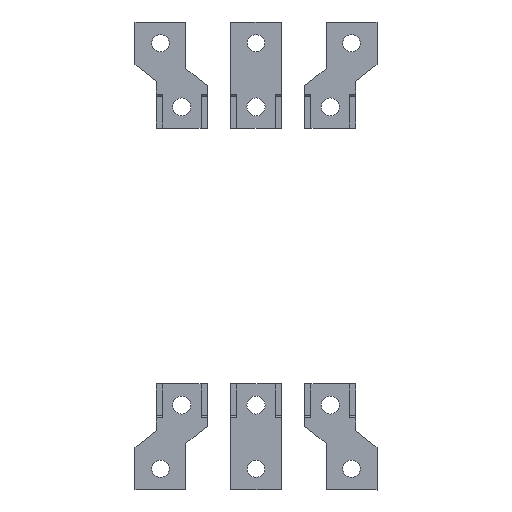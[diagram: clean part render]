
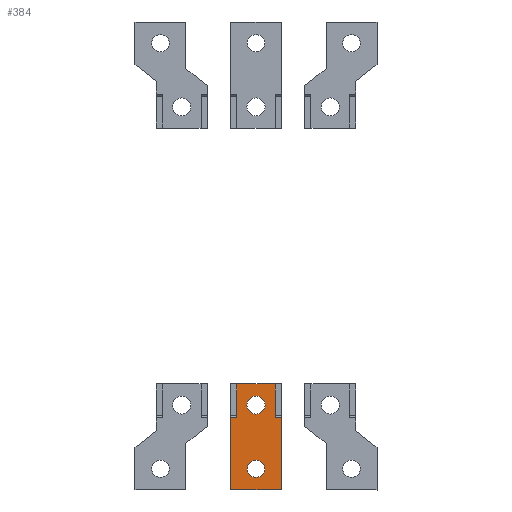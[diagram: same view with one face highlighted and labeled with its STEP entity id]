
A CAD part, top view. The second image highlights one B-rep face of the part: STEP entity #384.
In plain terms, the highlighted planar face has unit normal (0, 0, 1).
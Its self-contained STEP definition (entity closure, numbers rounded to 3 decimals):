
#116 = VECTOR ( 'NONE', #5432, 1000. ) ;
#135 = LINE ( 'NONE', #6839, #553 ) ;
#206 = VERTEX_POINT ( 'NONE', #6208 ) ;
#243 = FACE_BOUND ( 'NONE', #5377, .T. ) ;
#285 = ORIENTED_EDGE ( 'NONE', *, *, #3923, .F. ) ;
#293 = ORIENTED_EDGE ( 'NONE', *, *, #6228, .T. ) ;
#309 = ORIENTED_EDGE ( 'NONE', *, *, #5224, .F. ) ;
#347 = CARTESIAN_POINT ( 'NONE',  ( 0., -70.15, 24.2 ) ) ;
#384 = ADVANCED_FACE ( 'NONE', ( #6038, #243, #2803 ), #5697, .F. ) ;
#407 = AXIS2_PLACEMENT_3D ( 'NONE', #347, #5304, #859 ) ;
#409 = VECTOR ( 'NONE', #5088, 1000. ) ;
#553 = VECTOR ( 'NONE', #4684, 1000. ) ;
#627 = CIRCLE ( 'NONE', #4224, 4.1 ) ;
#677 = CARTESIAN_POINT ( 'NONE',  ( -4.25, -70.15, 24.2 ) ) ;
#714 = VERTEX_POINT ( 'NONE', #3971 ) ;
#736 = CIRCLE ( 'NONE', #407, 4.25 ) ;
#824 = CARTESIAN_POINT ( 'NONE',  ( 0., -70.15, 24.2 ) ) ;
#859 = DIRECTION ( 'NONE',  ( 1., 0., 0. ) ) ;
#865 = ORIENTED_EDGE ( 'NONE', *, *, #5262, .T. ) ;
#920 = EDGE_CURVE ( 'NONE', #1889, #714, #135, .T. ) ;
#931 = VERTEX_POINT ( 'NONE', #1372 ) ;
#1008 = EDGE_CURVE ( 'NONE', #2301, #3753, #627, .T. ) ;
#1320 = CARTESIAN_POINT ( 'NONE',  ( 0., -100.15, 24.2 ) ) ;
#1353 = AXIS2_PLACEMENT_3D ( 'NONE', #824, #2499, #4730 ) ;
#1357 = DIRECTION ( 'NONE',  ( 0., -1., 0. ) ) ;
#1372 = CARTESIAN_POINT ( 'NONE',  ( 9.1, -76.15, 24.2 ) ) ;
#1503 = CARTESIAN_POINT ( 'NONE',  ( -4.1, -100.15, 24.2 ) ) ;
#1508 = EDGE_CURVE ( 'NONE', #1721, #3262, #4884, .T. ) ;
#1721 = VERTEX_POINT ( 'NONE', #6866 ) ;
#1827 = CARTESIAN_POINT ( 'NONE',  ( -9.1, -76.15, 24.2 ) ) ;
#1860 = DIRECTION ( 'NONE',  ( -1., 0., 0. ) ) ;
#1887 = CARTESIAN_POINT ( 'NONE',  ( 4.25, -70.15, 24.2 ) ) ;
#1889 = VERTEX_POINT ( 'NONE', #4958 ) ;
#1955 = CARTESIAN_POINT ( 'NONE',  ( 9.1, -75.15, 24.2 ) ) ;
#2054 = VECTOR ( 'NONE', #4998, 1000. ) ;
#2083 = LINE ( 'NONE', #5786, #2937 ) ;
#2301 = VERTEX_POINT ( 'NONE', #1503 ) ;
#2336 = CIRCLE ( 'NONE', #1353, 4.25 ) ;
#2499 = DIRECTION ( 'NONE',  ( 0., 0., 1. ) ) ;
#2639 = AXIS2_PLACEMENT_3D ( 'NONE', #6745, #3976, #4534 ) ;
#2803 = FACE_OUTER_BOUND ( 'NONE', #4377, .T. ) ;
#2937 = VECTOR ( 'NONE', #6954, 1000. ) ;
#3020 = DIRECTION ( 'NONE',  ( 1., 0., 0. ) ) ;
#3159 = DIRECTION ( 'NONE',  ( 1., 0., 0. ) ) ;
#3262 = VERTEX_POINT ( 'NONE', #5674 ) ;
#3393 = EDGE_CURVE ( 'NONE', #931, #5306, #6956, .T. ) ;
#3753 = VERTEX_POINT ( 'NONE', #5787 ) ;
#3776 = ORIENTED_EDGE ( 'NONE', *, *, #5704, .F. ) ;
#3854 = ORIENTED_EDGE ( 'NONE', *, *, #920, .T. ) ;
#3923 = EDGE_CURVE ( 'NONE', #3753, #2301, #5540, .T. ) ;
#3971 = CARTESIAN_POINT ( 'NONE',  ( -9.1, -60.15, 24.2 ) ) ;
#3976 = DIRECTION ( 'NONE',  ( 0., 0., 1. ) ) ;
#4035 = VERTEX_POINT ( 'NONE', #1827 ) ;
#4069 = CARTESIAN_POINT ( 'NONE',  ( 0., -76.15, 24.2 ) ) ;
#4224 = AXIS2_PLACEMENT_3D ( 'NONE', #4844, #5380, #3159 ) ;
#4225 = EDGE_CURVE ( 'NONE', #4821, #6816, #736, .T. ) ;
#4311 = VECTOR ( 'NONE', #1357, 1000. ) ;
#4355 = LINE ( 'NONE', #4502, #2054 ) ;
#4377 = EDGE_LOOP ( 'NONE', ( #865, #4857, #6782, #3854, #4834, #309, #293, #5901 ) ) ;
#4389 = CARTESIAN_POINT ( 'NONE',  ( 12., -110.15, 24.2 ) ) ;
#4441 = AXIS2_PLACEMENT_3D ( 'NONE', #1320, #5125, #1860 ) ;
#4501 = VECTOR ( 'NONE', #3020, 1000. ) ;
#4502 = CARTESIAN_POINT ( 'NONE',  ( -12., -110.15, 24.2 ) ) ;
#4505 = EDGE_CURVE ( 'NONE', #4035, #714, #6860, .T. ) ;
#4534 = DIRECTION ( 'NONE',  ( 1., 0., 0. ) ) ;
#4684 = DIRECTION ( 'NONE',  ( -1., 0., 0. ) ) ;
#4730 = DIRECTION ( 'NONE',  ( 1., 0., 0. ) ) ;
#4821 = VERTEX_POINT ( 'NONE', #1887 ) ;
#4834 = ORIENTED_EDGE ( 'NONE', *, *, #4505, .F. ) ;
#4844 = CARTESIAN_POINT ( 'NONE',  ( 0., -100.15, 24.2 ) ) ;
#4851 = CARTESIAN_POINT ( 'NONE',  ( 12., -76.15, 24.2 ) ) ;
#4857 = ORIENTED_EDGE ( 'NONE', *, *, #3393, .F. ) ;
#4884 = LINE ( 'NONE', #6030, #6638 ) ;
#4919 = EDGE_LOOP ( 'NONE', ( #6048, #3776 ) ) ;
#4958 = CARTESIAN_POINT ( 'NONE',  ( 9.1, -60.15, 24.2 ) ) ;
#4960 = EDGE_CURVE ( 'NONE', #1889, #931, #6841, .T. ) ;
#4966 = DIRECTION ( 'NONE',  ( 1., 0., 0. ) ) ;
#4998 = DIRECTION ( 'NONE',  ( 0., -1., 0. ) ) ;
#5088 = DIRECTION ( 'NONE',  ( 0., 1., 0. ) ) ;
#5125 = DIRECTION ( 'NONE',  ( 0., 0., -1. ) ) ;
#5224 = EDGE_CURVE ( 'NONE', #206, #4035, #2083, .T. ) ;
#5262 = EDGE_CURVE ( 'NONE', #3262, #5306, #6575, .T. ) ;
#5304 = DIRECTION ( 'NONE',  ( 0., 0., 1. ) ) ;
#5306 = VERTEX_POINT ( 'NONE', #4851 ) ;
#5377 = EDGE_LOOP ( 'NONE', ( #285, #5427 ) ) ;
#5380 = DIRECTION ( 'NONE',  ( 0., 0., 1. ) ) ;
#5427 = ORIENTED_EDGE ( 'NONE', *, *, #1008, .F. ) ;
#5432 = DIRECTION ( 'NONE',  ( 0., 1., 0. ) ) ;
#5540 = CIRCLE ( 'NONE', #2639, 4.1 ) ;
#5674 = CARTESIAN_POINT ( 'NONE',  ( 12., -110.15, 24.2 ) ) ;
#5697 = PLANE ( 'NONE',  #4441 ) ;
#5704 = EDGE_CURVE ( 'NONE', #6816, #4821, #2336, .T. ) ;
#5786 = CARTESIAN_POINT ( 'NONE',  ( 0., -76.15, 24.2 ) ) ;
#5787 = CARTESIAN_POINT ( 'NONE',  ( 4.1, -100.15, 24.2 ) ) ;
#5901 = ORIENTED_EDGE ( 'NONE', *, *, #1508, .T. ) ;
#6030 = CARTESIAN_POINT ( 'NONE',  ( -12., -110.15, 24.2 ) ) ;
#6032 = CARTESIAN_POINT ( 'NONE',  ( -9.1, -60.15, 24.2 ) ) ;
#6038 = FACE_BOUND ( 'NONE', #4919, .T. ) ;
#6048 = ORIENTED_EDGE ( 'NONE', *, *, #4225, .F. ) ;
#6208 = CARTESIAN_POINT ( 'NONE',  ( -12., -76.15, 24.2 ) ) ;
#6228 = EDGE_CURVE ( 'NONE', #206, #1721, #4355, .T. ) ;
#6575 = LINE ( 'NONE', #4389, #116 ) ;
#6638 = VECTOR ( 'NONE', #4966, 1000. ) ;
#6745 = CARTESIAN_POINT ( 'NONE',  ( 0., -100.15, 24.2 ) ) ;
#6782 = ORIENTED_EDGE ( 'NONE', *, *, #4960, .F. ) ;
#6816 = VERTEX_POINT ( 'NONE', #677 ) ;
#6839 = CARTESIAN_POINT ( 'NONE',  ( -12., -60.15, 24.2 ) ) ;
#6841 = LINE ( 'NONE', #1955, #4311 ) ;
#6860 = LINE ( 'NONE', #6032, #409 ) ;
#6866 = CARTESIAN_POINT ( 'NONE',  ( -12., -110.15, 24.2 ) ) ;
#6954 = DIRECTION ( 'NONE',  ( 1., 0., 0. ) ) ;
#6956 = LINE ( 'NONE', #4069, #4501 ) ;
